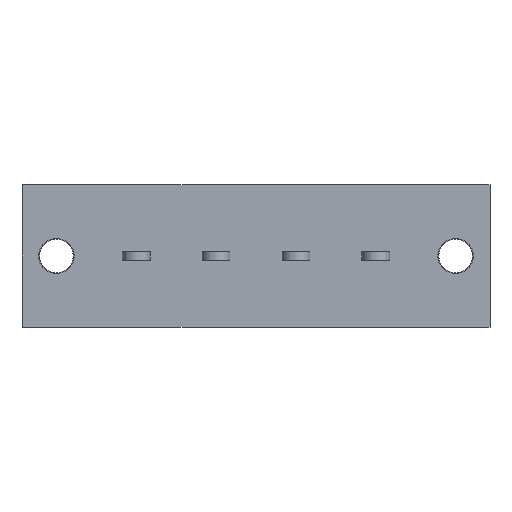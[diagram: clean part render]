
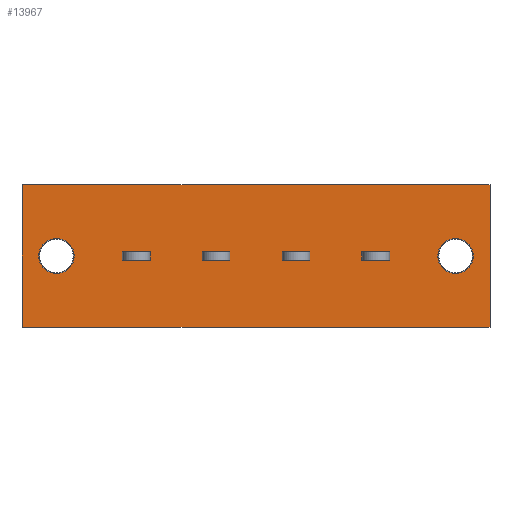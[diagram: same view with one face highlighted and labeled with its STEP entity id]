
A CAD part, front view. The second image highlights one B-rep face of the part: STEP entity #13967.
In plain terms, the highlighted planar face has unit normal (0, -1, 0).
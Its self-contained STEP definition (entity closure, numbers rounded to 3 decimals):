
#942=VECTOR('',#15684,1.);
#976=VECTOR('',#15751,1.);
#980=VECTOR('',#15758,1.);
#990=VECTOR('',#15790,1.);
#993=VECTOR('',#15802,1.);
#1484=VECTOR('',#16533,1.);
#1521=VECTOR('',#16681,1.);
#1525=VECTOR('',#16688,1.);
#1549=VECTOR('',#16739,1.);
#1552=VECTOR('',#16751,1.);
#1649=VECTOR('',#17025,1.);
#1653=VECTOR('',#17032,1.);
#1677=VECTOR('',#17083,1.);
#1680=VECTOR('',#17095,1.);
#1766=VECTOR('',#17340,1.);
#1772=VECTOR('',#17347,1.);
#1773=VECTOR('',#17348,1.);
#1774=VECTOR('',#17349,1.);
#1775=VECTOR('',#17350,1.);
#1776=VECTOR('',#17351,1.);
#2456=LINE('',#19548,#942);
#2490=LINE('',#19635,#976);
#2494=LINE('',#19646,#980);
#2504=LINE('',#19680,#990);
#2507=LINE('',#19691,#993);
#2998=LINE('',#21431,#1484);
#3035=LINE('',#21619,#1521);
#3039=LINE('',#21630,#1525);
#3063=LINE('',#21697,#1549);
#3066=LINE('',#21708,#1552);
#3163=LINE('',#22053,#1649);
#3167=LINE('',#22064,#1653);
#3191=LINE('',#22131,#1677);
#3194=LINE('',#22142,#1680);
#3280=LINE('',#22459,#1766);
#3286=LINE('',#22470,#1772);
#3287=LINE('',#22473,#1773);
#3288=LINE('',#22475,#1774);
#3289=LINE('',#22477,#1775);
#3290=LINE('',#22478,#1776);
#3659=VERTEX_POINT('',#18075);
#3990=VERTEX_POINT('',#19547);
#3991=VERTEX_POINT('',#19549);
#4024=VERTEX_POINT('',#19636);
#4025=VERTEX_POINT('',#19637);
#4029=VERTEX_POINT('',#19647);
#4040=VERTEX_POINT('',#19681);
#4134=VERTEX_POINT('',#19958);
#4465=VERTEX_POINT('',#21430);
#4466=VERTEX_POINT('',#21432);
#4510=VERTEX_POINT('',#21620);
#4511=VERTEX_POINT('',#21621);
#4515=VERTEX_POINT('',#21631);
#4542=VERTEX_POINT('',#21698);
#4642=VERTEX_POINT('',#22054);
#4643=VERTEX_POINT('',#22055);
#4647=VERTEX_POINT('',#22065);
#4674=VERTEX_POINT('',#22132);
#4773=VERTEX_POINT('',#22471);
#4774=VERTEX_POINT('',#22472);
#4775=VERTEX_POINT('',#22474);
#4776=VERTEX_POINT('',#22476);
#5035=CIRCLE('',#14155,2.1);
#5081=CIRCLE('',#14397,2.1);
#5333=EDGE_CURVE('',#3659,#3659,#5035,.T.);
#5827=EDGE_CURVE('',#3990,#3991,#2456,.T.);
#5870=EDGE_CURVE('',#4024,#4025,#2490,.T.);
#5875=EDGE_CURVE('',#4029,#4024,#2494,.T.);
#5892=EDGE_CURVE('',#4025,#4040,#2504,.T.);
#5897=EDGE_CURVE('',#4040,#4029,#2507,.T.);
#6029=EDGE_CURVE('',#4134,#4134,#5081,.T.);
#6523=EDGE_CURVE('',#4465,#4466,#2998,.T.);
#6597=EDGE_CURVE('',#4510,#4511,#3035,.T.);
#6602=EDGE_CURVE('',#4515,#4510,#3039,.T.);
#6635=EDGE_CURVE('',#4511,#4542,#3063,.T.);
#6640=EDGE_CURVE('',#4542,#4515,#3066,.T.);
#6793=EDGE_CURVE('',#4642,#4643,#3163,.T.);
#6798=EDGE_CURVE('',#4647,#4642,#3167,.T.);
#6831=EDGE_CURVE('',#4643,#4674,#3191,.T.);
#6836=EDGE_CURVE('',#4674,#4647,#3194,.T.);
#6975=EDGE_CURVE('',#3990,#4466,#3280,.T.);
#6981=EDGE_CURVE('',#4773,#4774,#3286,.T.);
#6982=EDGE_CURVE('',#4774,#4775,#3287,.T.);
#6983=EDGE_CURVE('',#4775,#4776,#3288,.T.);
#6984=EDGE_CURVE('',#4776,#4773,#3289,.T.);
#6985=EDGE_CURVE('',#3991,#4465,#3290,.T.);
#10668=ORIENTED_EDGE('',*,*,#5333,.T.);
#10669=ORIENTED_EDGE('',*,*,#5875,.T.);
#10670=ORIENTED_EDGE('',*,*,#5870,.T.);
#10671=ORIENTED_EDGE('',*,*,#5892,.T.);
#10672=ORIENTED_EDGE('',*,*,#5897,.T.);
#10673=ORIENTED_EDGE('',*,*,#6029,.T.);
#10674=ORIENTED_EDGE('',*,*,#6602,.T.);
#10675=ORIENTED_EDGE('',*,*,#6597,.T.);
#10676=ORIENTED_EDGE('',*,*,#6635,.T.);
#10677=ORIENTED_EDGE('',*,*,#6640,.T.);
#10678=ORIENTED_EDGE('',*,*,#6981,.T.);
#10679=ORIENTED_EDGE('',*,*,#6982,.T.);
#10680=ORIENTED_EDGE('',*,*,#6983,.T.);
#10681=ORIENTED_EDGE('',*,*,#6984,.T.);
#10682=ORIENTED_EDGE('',*,*,#6798,.T.);
#10683=ORIENTED_EDGE('',*,*,#6793,.T.);
#10684=ORIENTED_EDGE('',*,*,#6831,.T.);
#10685=ORIENTED_EDGE('',*,*,#6836,.T.);
#10686=ORIENTED_EDGE('',*,*,#6975,.T.);
#10687=ORIENTED_EDGE('',*,*,#6523,.F.);
#10688=ORIENTED_EDGE('',*,*,#6985,.F.);
#10689=ORIENTED_EDGE('',*,*,#5827,.F.);
#12249=EDGE_LOOP('',(#10668));
#12250=EDGE_LOOP('',(#10669,#10670,#10671,#10672));
#12251=EDGE_LOOP('',(#10673));
#12252=EDGE_LOOP('',(#10674,#10675,#10676,#10677));
#12253=EDGE_LOOP('',(#10678,#10679,#10680,#10681));
#12254=EDGE_LOOP('',(#10682,#10683,#10684,#10685));
#12255=EDGE_LOOP('',(#10686,#10687,#10688,#10689));
#13149=FACE_BOUND('',#12249,.T.);
#13150=FACE_BOUND('',#12250,.T.);
#13151=FACE_BOUND('',#12251,.T.);
#13152=FACE_BOUND('',#12252,.T.);
#13153=FACE_BOUND('',#12253,.T.);
#13154=FACE_BOUND('',#12254,.T.);
#13155=FACE_BOUND('',#12255,.T.);
#13967=ADVANCED_FACE('',(#13149,#13150,#13151,#13152,#13153,#13154,#13155),
#23696,.T.);
#14155=AXIS2_PLACEMENT_3D('',#18074,#15164,#15165);
#14397=AXIS2_PLACEMENT_3D('',#19957,#16013,#16014);
#14850=AXIS2_PLACEMENT_3D('',#22469,#17346,$);
#15164=DIRECTION('',(0.,1.,0.));
#15165=DIRECTION('',(2.1,0.,0.));
#15684=DIRECTION('',(0.,0.,1.));
#15751=DIRECTION('',(0.,0.,1.));
#15758=DIRECTION('',(-1.,0.,0.));
#15790=DIRECTION('',(1.,0.,0.));
#15802=DIRECTION('',(0.,0.,-1.));
#16013=DIRECTION('',(0.,1.,0.));
#16014=DIRECTION('',(-2.1,0.,0.));
#16533=DIRECTION('',(0.,0.,-1.));
#16681=DIRECTION('',(0.,0.,1.));
#16688=DIRECTION('',(-1.,0.,0.));
#16739=DIRECTION('',(1.,0.,0.));
#16751=DIRECTION('',(0.,0.,-1.));
#17025=DIRECTION('',(0.,0.,1.));
#17032=DIRECTION('',(-1.,0.,0.));
#17083=DIRECTION('',(1.,0.,0.));
#17095=DIRECTION('',(0.,0.,-1.));
#17340=DIRECTION('',(1.,0.,0.));
#17346=DIRECTION('',(0.,-1.,0.));
#17347=DIRECTION('',(-1.,0.,0.));
#17348=DIRECTION('',(0.,0.,1.));
#17349=DIRECTION('',(1.,0.,0.));
#17350=DIRECTION('',(0.,0.,-1.));
#17351=DIRECTION('',(1.,0.,0.));
#18074=CARTESIAN_POINT('',(-4.05,0.,0.));
#18075=CARTESIAN_POINT('',(-6.15,0.,0.));
#19547=CARTESIAN_POINT('',(-8.15,0.,-8.5));
#19548=CARTESIAN_POINT('',(-8.15,0.,-8.5));
#19549=CARTESIAN_POINT('',(-8.15,0.,8.5));
#19635=CARTESIAN_POINT('',(3.8,0.,0.));
#19636=CARTESIAN_POINT('',(3.8,0.,-0.5));
#19637=CARTESIAN_POINT('',(3.8,0.,0.5));
#19646=CARTESIAN_POINT('',(7.475,0.,-0.5));
#19647=CARTESIAN_POINT('',(7.1,0.,-0.5));
#19680=CARTESIAN_POINT('',(7.475,0.,0.5));
#19681=CARTESIAN_POINT('',(7.1,0.,0.5));
#19691=CARTESIAN_POINT('',(7.1,0.,0.));
#19957=CARTESIAN_POINT('',(43.45,0.,0.));
#19958=CARTESIAN_POINT('',(45.55,0.,0.));
#21430=CARTESIAN_POINT('',(47.55,0.,8.5));
#21431=CARTESIAN_POINT('',(47.55,0.,8.5));
#21432=CARTESIAN_POINT('',(47.55,0.,-8.5));
#21619=CARTESIAN_POINT('',(32.3,0.,0.));
#21620=CARTESIAN_POINT('',(32.3,0.,-0.5));
#21621=CARTESIAN_POINT('',(32.3,0.,0.5));
#21630=CARTESIAN_POINT('',(21.725,0.,-0.5));
#21631=CARTESIAN_POINT('',(35.6,0.,-0.5));
#21697=CARTESIAN_POINT('',(21.725,0.,0.5));
#21698=CARTESIAN_POINT('',(35.6,0.,0.5));
#21708=CARTESIAN_POINT('',(35.6,0.,0.));
#22053=CARTESIAN_POINT('',(13.3,0.,0.));
#22054=CARTESIAN_POINT('',(13.3,0.,-0.5));
#22055=CARTESIAN_POINT('',(13.3,0.,0.5));
#22064=CARTESIAN_POINT('',(12.225,0.,-0.5));
#22065=CARTESIAN_POINT('',(16.6,0.,-0.5));
#22131=CARTESIAN_POINT('',(12.225,0.,0.5));
#22132=CARTESIAN_POINT('',(16.6,0.,0.5));
#22142=CARTESIAN_POINT('',(16.6,0.,0.));
#22459=CARTESIAN_POINT('',(-8.15,0.,-8.5));
#22469=CARTESIAN_POINT('',(9.5,0.,0.));
#22470=CARTESIAN_POINT('',(16.975,0.,-0.5));
#22471=CARTESIAN_POINT('',(26.1,0.,-0.5));
#22472=CARTESIAN_POINT('',(22.8,0.,-0.5));
#22473=CARTESIAN_POINT('',(22.8,0.,0.));
#22474=CARTESIAN_POINT('',(22.8,0.,0.5));
#22475=CARTESIAN_POINT('',(16.975,0.,0.5));
#22476=CARTESIAN_POINT('',(26.1,0.,0.5));
#22477=CARTESIAN_POINT('',(26.1,0.,0.));
#22478=CARTESIAN_POINT('',(-8.15,0.,8.5));
#23696=PLANE('',#14850);
